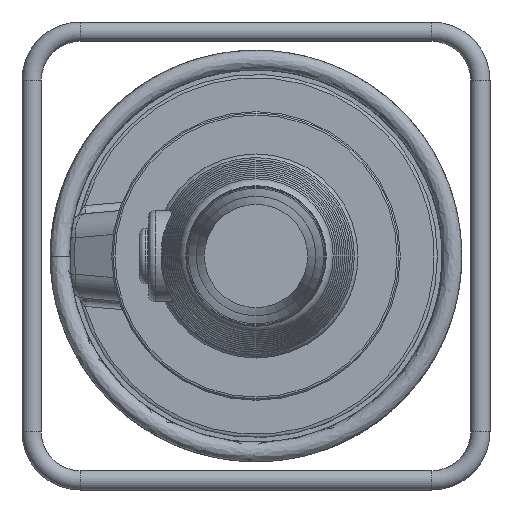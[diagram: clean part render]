
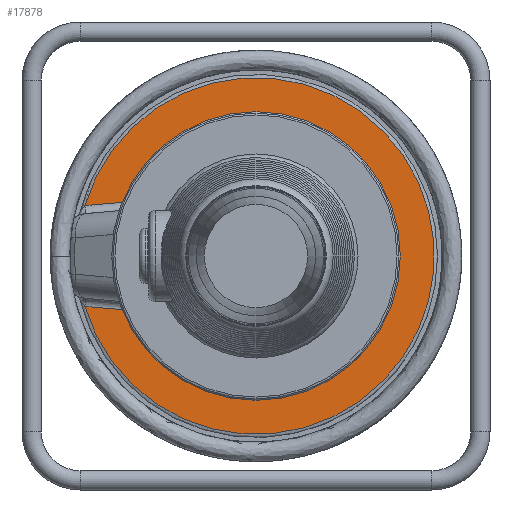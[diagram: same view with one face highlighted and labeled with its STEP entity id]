
A CAD part, left-side view. The second image highlights one B-rep face of the part: STEP entity #17878.
In plain terms, the highlighted planar face has unit normal (-1, 0, 0).
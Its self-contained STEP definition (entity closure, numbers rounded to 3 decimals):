
#1807=PLANE('',#18934);
#2640=FACE_OUTER_BOUND('',#3679,.T.);
#3679=EDGE_LOOP('',(#15208,#15209,#15210,#15211));
#4735=LINE('',#40095,#5699);
#4741=LINE('',#40375,#5705);
#5699=VECTOR('',#21856,10.);
#5705=VECTOR('',#21890,10.);
#6218=CIRCLE('',#18933,74.);
#6219=CIRCLE('',#18935,110.5);
#7915=VERTEX_POINT('',#40088);
#7918=VERTEX_POINT('',#40093);
#7937=VERTEX_POINT('',#40369);
#7939=VERTEX_POINT('',#40373);
#10312=EDGE_CURVE('',#7918,#7915,#4735,.T.);
#10339=EDGE_CURVE('',#7939,#7937,#4741,.T.);
#10421=EDGE_CURVE('',#7918,#7937,#6218,.T.);
#10422=EDGE_CURVE('',#7915,#7939,#6219,.T.);
#15208=ORIENTED_EDGE('',*,*,#10339,.F.);
#15209=ORIENTED_EDGE('',*,*,#10422,.F.);
#15210=ORIENTED_EDGE('',*,*,#10312,.F.);
#15211=ORIENTED_EDGE('',*,*,#10421,.T.);
#17878=ADVANCED_FACE('',(#2640),#1807,.T.);
#18933=AXIS2_PLACEMENT_3D('',#40968,#22053,#22054);
#18934=AXIS2_PLACEMENT_3D('',#40969,#22055,#22056);
#18935=AXIS2_PLACEMENT_3D('',#40970,#22057,#22058);
#21856=DIRECTION('',(0.,0.996,-0.087));
#21890=DIRECTION('',(0.,-0.996,-0.087));
#22053=DIRECTION('center_axis',(1.,0.,0.));
#22054=DIRECTION('ref_axis',(0.,-1.,0.));
#22055=DIRECTION('center_axis',(-1.,0.,0.));
#22056=DIRECTION('ref_axis',(0.,0.,
1.));
#22057=DIRECTION('center_axis',(1.,0.,0.));
#22058=DIRECTION('ref_axis',(0.,-1.,0.));
#40088=CARTESIAN_POINT('',(-20.,105.991,31.245));
#40093=CARTESIAN_POINT('',(-20.,65.304,34.804));
#40095=CARTESIAN_POINT('',(-20.,0.632,40.462));
#40369=CARTESIAN_POINT('',(-20.,65.304,-34.804));
#40373=CARTESIAN_POINT('',(-20.,105.991,-31.245));
#40375=CARTESIAN_POINT('',(-20.,0.632,-40.462));
#40968=CARTESIAN_POINT('Origin',(-20.,0.,
0.));
#40969=CARTESIAN_POINT('Origin',(-20.,-92.25,0.));
#40970=CARTESIAN_POINT('Origin',(-20.,0.,
0.));
